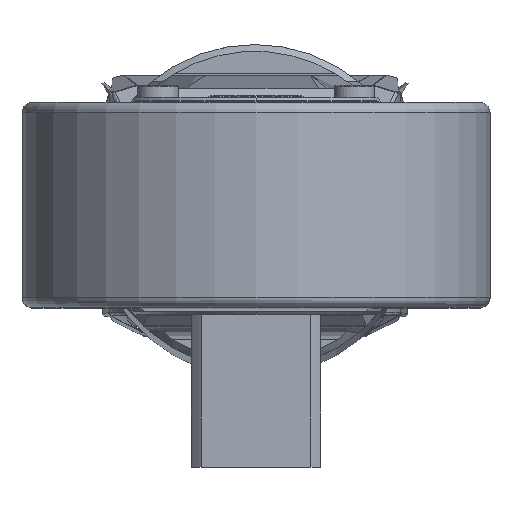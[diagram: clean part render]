
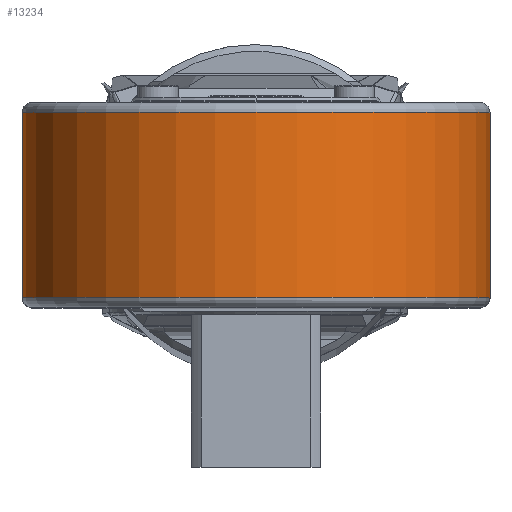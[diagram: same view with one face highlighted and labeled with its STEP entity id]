
A CAD part, top view. The second image highlights one B-rep face of the part: STEP entity #13234.
In plain terms, the highlighted cylindrical face has radius 34.5 mm (diameter 69 mm), a partial arc.
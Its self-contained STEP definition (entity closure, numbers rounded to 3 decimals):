
#12708=DIRECTION('',(0.,1.,0.));
#12709=VECTOR('',#12708,27.3);
#12710=CARTESIAN_POINT('',(34.654,4.,969.5));
#12711=LINE('',#12710,#12709);
#12712=CARTESIAN_POINT('',(0.154,31.3,969.5));
#12713=DIRECTION('',(0.,1.,0.));
#12714=DIRECTION('',(-1.,0.,0.));
#12715=AXIS2_PLACEMENT_3D('',#12712,#12713,#12714);
#12717=CARTESIAN_POINT('',(0.154,4.,
969.5));
#12718=DIRECTION('',(0.,-1.,0.));
#12719=DIRECTION('',(1.,0.,0.));
#12720=AXIS2_PLACEMENT_3D('',#12717,#12718,#12719);
#12722=DIRECTION('',(0.,1.,0.));
#12723=VECTOR('',#12722,27.3);
#12724=CARTESIAN_POINT('',(-34.346,4.,
969.5));
#12725=LINE('',#12724,#12723);
#12770=CARTESIAN_POINT('',(34.654,31.3,969.5));
#12771=VERTEX_POINT('',#12770);
#12774=CARTESIAN_POINT('',(-34.346,31.3,969.5));
#12775=VERTEX_POINT('',#12774);
#12810=CARTESIAN_POINT('',(-34.346,4.,
969.5));
#12811=VERTEX_POINT('',#12810);
#12814=CARTESIAN_POINT('',(34.654,4.,969.5));
#12815=VERTEX_POINT('',#12814);
#13222=CARTESIAN_POINT('',(0.154,2.5,
969.5));
#13223=DIRECTION('',(0.,1.,0.));
#13224=DIRECTION('',(0.,0.,-1.));
#13225=AXIS2_PLACEMENT_3D('',#13222,#13223,#13224);
#13226=CYLINDRICAL_SURFACE('',#13225,34.5);
#13227=ORIENTED_EDGE('',*,*,#13136,.T.);
#13228=ORIENTED_EDGE('',*,*,#13217,.F.);
#13229=ORIENTED_EDGE('',*,*,#13026,.T.);
#13231=ORIENTED_EDGE('',*,*,#13230,.T.);
#13232=EDGE_LOOP('',(#13227,#13228,#13229,#13231));
#13233=FACE_OUTER_BOUND('',#13232,.F.);
#12716=CIRCLE('',#12715,34.5);
#12721=CIRCLE('',#12720,34.5);
#13026=EDGE_CURVE('',#12815,#12811,#12721,.T.);
#13136=EDGE_CURVE('',#12775,#12771,#12716,.T.);
#13217=EDGE_CURVE('',#12815,#12771,#12711,.T.);
#13230=EDGE_CURVE('',#12811,#12775,#12725,.T.);
#13234=ADVANCED_FACE('',(#13233),#13226,.T.);
